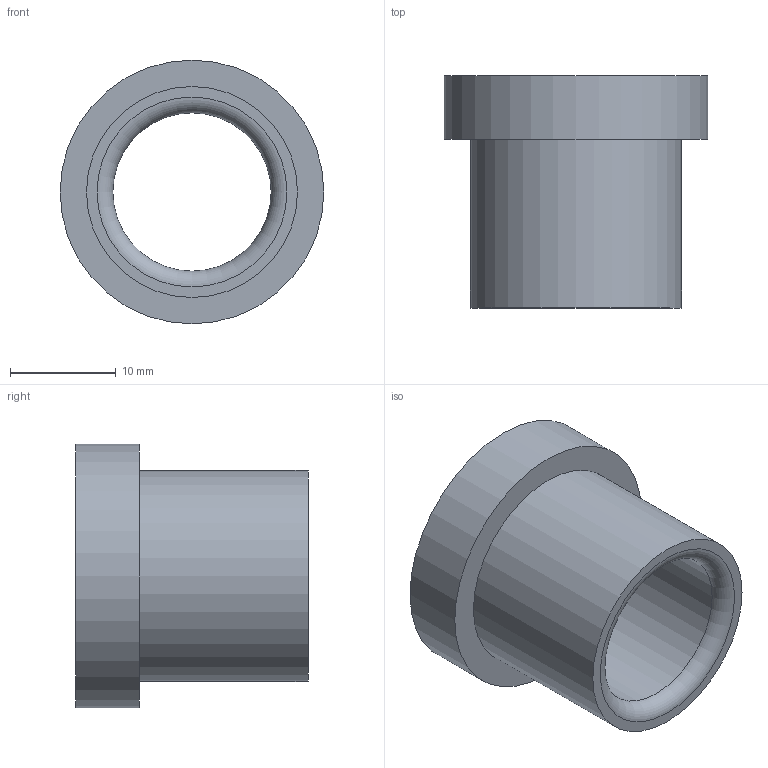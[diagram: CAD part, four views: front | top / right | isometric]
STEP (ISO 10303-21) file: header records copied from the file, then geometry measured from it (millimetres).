
FILE_DESCRIPTION(/* description */ ('STEP AP214'),/* implementation_level */ '2;1');
FILE_NAME(/* name */ '03_12_17908',/* time_stamp */ '2023-06-15T11:35:25+02:00',/* author */ ('License CC BY-ND 4.0'),/* organization */ ('CADENAS'),/* preprocessor_version */ 'ST-DEVELOPER v19.3',/* originating_system */ 'PARTsolutions',/* authorisation */ ' ');
FILE_SCHEMA (('AUTOMOTIVE_DESIGN {1 0 10303 214 3 1 1}'));
Length unit declared in the file: millimetre
Products named in the file (1): VA_Bushing_17908
Bounding box: 25 x 22 x 25 mm (x, y, z)
Volume: 3972.2 mm3; surface area: 3090 mm2
Topology: 1 solids, 1 shells, 10 faces, 16 edges, 10 vertices
Faces by surface type: cylinder 4, plane 4, torus 2
Full cylindrical faces by diameter (mm): 15 x1, 15.6 x1, 20 x1, 25 x1
Entity records: 302 total; most frequent: DIRECTION 42, CARTESIAN_POINT 31, AXIS2_PLACEMENT_3D 21, ORIENTED_EDGE 20, EDGE_LOOP 20, FACE_BOUND 20, EDGE_CURVE 10, VERTEX_POINT 10
